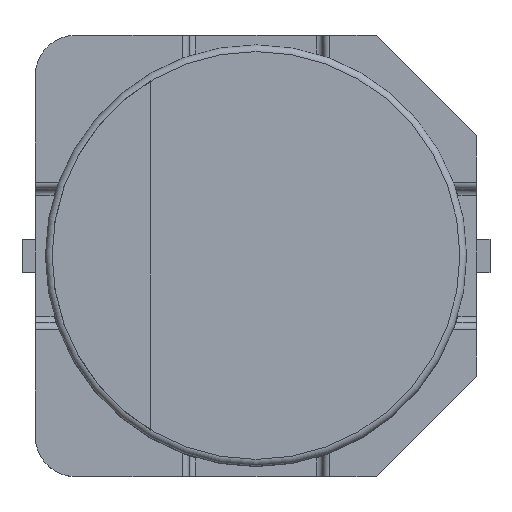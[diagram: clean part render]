
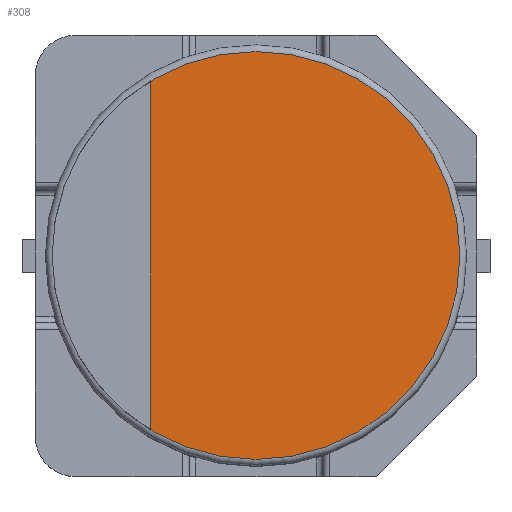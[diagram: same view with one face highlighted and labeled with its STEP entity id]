
A CAD part, top view. The second image highlights one B-rep face of the part: STEP entity #308.
In plain terms, the highlighted planar face has unit normal (0, 0, 1).
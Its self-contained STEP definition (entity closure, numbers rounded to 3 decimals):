
#308=ADVANCED_FACE('',(#409),#352,.F.);
#352=PLANE('',#1443);
#409=FACE_OUTER_BOUND('',#493,.T.);
#493=EDGE_LOOP('',(#812));
#562=CIRCLE('',#1442,3.05);
#812=ORIENTED_EDGE('',*,*,#1128,.T.);
#979=VERTEX_POINT('',#2227);
#1128=EDGE_CURVE('',#979,#979,#562,.T.);
#1442=AXIS2_PLACEMENT_3D('',#2226,#1733,#1734);
#1443=AXIS2_PLACEMENT_3D('',#2228,#1735,#1736);
#1733=DIRECTION('',(0.,0.,1.));
#1734=DIRECTION('',(-1.,0.,0.));
#1735=DIRECTION('',(0.,0.,-1.));
#1736=DIRECTION('',(-1.,0.,0.));
#2226=CARTESIAN_POINT('',(0.,0.,5.2));
#2227=CARTESIAN_POINT('',(-3.05,0.,5.2));
#2228=CARTESIAN_POINT('',(0.,0.,5.2));
